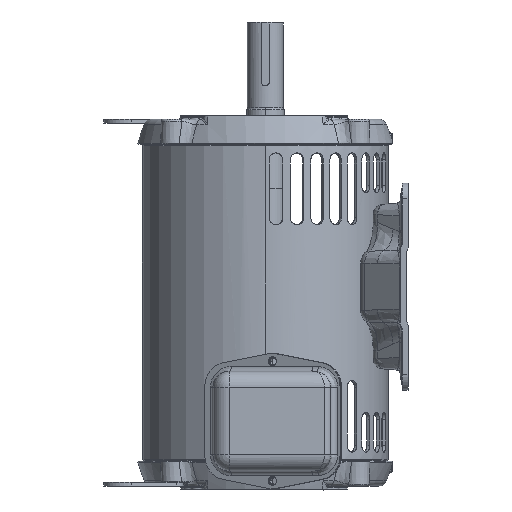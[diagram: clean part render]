
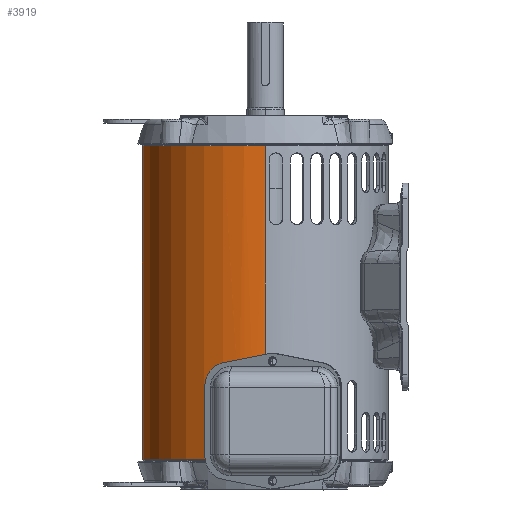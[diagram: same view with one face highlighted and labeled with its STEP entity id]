
A CAD part, left-side view. The second image highlights one B-rep face of the part: STEP entity #3919.
In plain terms, the highlighted cylindrical face has radius 97.815 mm (diameter 195.631 mm), a partial arc.
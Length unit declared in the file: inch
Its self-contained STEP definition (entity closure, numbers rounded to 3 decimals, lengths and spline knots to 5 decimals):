
#2=CARTESIAN_POINT('',(-3.78118,0.73,-3.1595));
#3=CARTESIAN_POINT('',(-3.77863,0.7432,-3.1595));
#4=CARTESIAN_POINT('',(-3.77372,0.7679,-3.15504));
#5=CARTESIAN_POINT('',(-3.76662,0.80193,-3.13562));
#6=CARTESIAN_POINT('',(-3.76119,0.8269,-3.1056));
#7=CARTESIAN_POINT('',(-3.75828,0.83998,-3.06955));
#8=CARTESIAN_POINT('',(-3.75825,0.84009,-3.03092));
#9=CARTESIAN_POINT('',(-3.76117,0.82701,-2.99465));
#10=CARTESIAN_POINT('',(-3.76651,0.80246,-2.96482));
#11=CARTESIAN_POINT('',(-3.77369,0.76804,-2.94495));
#12=CARTESIAN_POINT('',(-3.77862,0.74326,-2.9405));
#13=CARTESIAN_POINT('',(-3.78118,0.73,-2.9405));
#15=CARTESIAN_POINT('',(-3.78118,0.73,-2.9405));
#16=CARTESIAN_POINT('',(-3.78372,0.71683,-2.9405));
#17=CARTESIAN_POINT('',(-3.78834,0.69216,-2.94495));
#18=CARTESIAN_POINT('',(-3.79437,0.65823,-2.96426));
#19=CARTESIAN_POINT('',(-3.7986,0.63319,-2.99422));
#20=CARTESIAN_POINT('',(-3.80076,0.62002,-3.03037));
#21=CARTESIAN_POINT('',(-3.80078,0.61991,-3.06918));
#22=CARTESIAN_POINT('',(-3.79862,0.63309,-3.10555));
#23=CARTESIAN_POINT('',(-3.79446,0.65772,-3.13532));
#24=CARTESIAN_POINT('',(-3.78837,0.69205,-3.15507));
#25=CARTESIAN_POINT('',(-3.78373,0.71679,-3.1595));
#26=CARTESIAN_POINT('',(-3.78118,0.73,-3.1595));
#28=CARTESIAN_POINT('',(0.,0.,4.91902));
#29=DIRECTION('',(0.,0.,1.));
#30=DIRECTION('',(1.,0.,0.));
#31=AXIS2_PLACEMENT_3D('',#28,#29,#30);
#33=CARTESIAN_POINT('',(0.,0.,4.91902));
#34=DIRECTION('',(0.,0.,1.));
#35=DIRECTION('',(0.,1.,0.));
#36=AXIS2_PLACEMENT_3D('',#33,#34,#35);
#38=CARTESIAN_POINT('',(-3.83797,0.31658,-3.03443));
#39=CARTESIAN_POINT('',(-3.84073,0.28301,-3.02017));
#40=CARTESIAN_POINT('',(-3.84549,0.21473,-2.99646));
#41=CARTESIAN_POINT('',(-3.84999,0.10782,-2.97477));
#42=CARTESIAN_POINT('',(-3.851,0.03614,-2.97));
#43=CARTESIAN_POINT('',(-3.851,0.,-2.97));
#45=CARTESIAN_POINT('',(-3.83148,0.38721,-3.12066));
#46=CARTESIAN_POINT('',(-3.83162,0.38589,-3.11428));
#47=CARTESIAN_POINT('',(-3.83198,0.38228,-3.10193));
#48=CARTESIAN_POINT('',(-3.83281,0.37392,-3.08439));
#49=CARTESIAN_POINT('',(-3.83387,0.36287,-3.06847));
#50=CARTESIAN_POINT('',(-3.83512,0.34944,-3.05453));
#51=CARTESIAN_POINT('',(-3.83651,0.33391,-3.04291));
#52=CARTESIAN_POINT('',(-3.83747,0.32255,-3.03696));
#53=CARTESIAN_POINT('',(-3.83797,0.31658,-3.03443));
#55=CARTESIAN_POINT('',(-3.79414,0.65934,-3.39279));
#56=CARTESIAN_POINT('',(-3.79703,0.64268,-3.38936));
#57=CARTESIAN_POINT('',(-3.80245,0.6102,-3.38016));
#58=CARTESIAN_POINT('',(-3.80964,0.56354,-3.35929));
#59=CARTESIAN_POINT('',(-3.81574,0.52046,-3.33189));
#60=CARTESIAN_POINT('',(-3.8208,0.48177,-3.2985));
#61=CARTESIAN_POINT('',(-3.82485,0.44833,-3.25984));
#62=CARTESIAN_POINT('',(-3.82796,0.42086,-3.21675));
#63=CARTESIAN_POINT('',(-3.83019,0.3999,-3.17));
#64=CARTESIAN_POINT('',(-3.83114,0.39066,-3.1374));
#65=CARTESIAN_POINT('',(-3.83148,0.38721,-3.12066));
#67=CARTESIAN_POINT('',(-3.77814,0.74557,-3.46342));
#68=CARTESIAN_POINT('',(-3.77864,0.74301,-3.4574));
#69=CARTESIAN_POINT('',(-3.77982,0.73701,-3.44596));
#70=CARTESIAN_POINT('',(-3.78209,0.72531,-3.43038));
#71=CARTESIAN_POINT('',(-3.78474,0.71133,-3.41696));
#72=CARTESIAN_POINT('',(-3.7877,0.69543,-3.40598));
#73=CARTESIAN_POINT('',(-3.79087,0.67797,-3.39769));
#74=CARTESIAN_POINT('',(-3.79303,0.66568,-3.3941));
#75=CARTESIAN_POINT('',(-3.79414,0.65934,-3.39279));
#77=CARTESIAN_POINT('',(-3.851,0.,-4.59));
#78=CARTESIAN_POINT('',(-3.851,0.02796,-4.59));
#79=CARTESIAN_POINT('',(-3.8504,0.08371,-4.58713));
#80=CARTESIAN_POINT('',(-3.84765,0.16762,-4.57398));
#81=CARTESIAN_POINT('',(-3.8432,0.2493,-4.5522));
#82=CARTESIAN_POINT('',(-3.83733,0.3271,-4.52254));
#83=CARTESIAN_POINT('',(-3.83029,0.40112,-4.48539));
#84=CARTESIAN_POINT('',(-3.82185,0.47485,-4.43831));
#85=CARTESIAN_POINT('',(-3.81187,0.54934,-4.37809));
#86=CARTESIAN_POINT('',(-3.80029,0.62443,-4.30029));
#87=CARTESIAN_POINT('',(-3.78755,0.69736,-4.19894));
#88=CARTESIAN_POINT('',(-3.7756,0.75896,-4.07534));
#89=CARTESIAN_POINT('',(-3.76667,0.80167,-3.92747));
#90=CARTESIAN_POINT('',(-3.76368,0.81538,-3.76745));
#91=CARTESIAN_POINT('',(-3.76784,0.7962,-3.60559));
#92=CARTESIAN_POINT('',(-3.77426,0.76524,-3.50975));
#93=CARTESIAN_POINT('',(-3.77814,0.74557,-3.46342));
#95=CARTESIAN_POINT('',(0.,0.,-4.92302));
#96=DIRECTION('',(0.,0.,1.));
#97=DIRECTION('',(0.,1.,0.));
#98=AXIS2_PLACEMENT_3D('',#95,#96,#97);
#100=CARTESIAN_POINT('',(0.,0.,-4.92302));
#101=DIRECTION('',(0.,0.,1.));
#102=DIRECTION('',(1.,0.,0.));
#103=AXIS2_PLACEMENT_3D('',#100,#101,#102);
#105=DIRECTION('',(0.,0.,1.));
#106=VECTOR('',#105,9.84203);
#107=CARTESIAN_POINT('',(3.851,0.,-4.92302));
#108=LINE('',#107,#106);
#1455=DIRECTION('',(0.,0.,1.));
#1456=VECTOR('',#1455,0.33302);
#1457=CARTESIAN_POINT('',(-3.851,0.,-4.92302));
#1458=LINE('',#1457,#1456);
#1516=DIRECTION('',(0.,0.,1.));
#1517=VECTOR('',#1516,7.88902);
#1518=CARTESIAN_POINT('',(-3.851,0.,-2.97));
#1519=LINE('',#1518,#1517);
#3338=VERTEX_POINT('',#2);
#3339=VERTEX_POINT('',#13);
#3366=VERTEX_POINT('',#45);
#3367=VERTEX_POINT('',#53);
#3368=VERTEX_POINT('',#43);
#3369=VERTEX_POINT('',#77);
#3370=VERTEX_POINT('',#93);
#3371=VERTEX_POINT('',#75);
#3858=CARTESIAN_POINT('',(3.851,0.,4.91902));
#3859=CARTESIAN_POINT('',(0.,3.851,4.91902));
#3860=VERTEX_POINT('',#3858);
#3861=VERTEX_POINT('',#3859);
#3862=CARTESIAN_POINT('',(-3.851,0.,4.91902));
#3863=VERTEX_POINT('',#3862);
#3864=CARTESIAN_POINT('',(3.851,0.,-4.92302));
#3865=CARTESIAN_POINT('',(0.,3.851,-4.92302));
#3866=VERTEX_POINT('',#3864);
#3867=VERTEX_POINT('',#3865);
#3868=CARTESIAN_POINT('',(-3.851,0.,-4.92302));
#3869=VERTEX_POINT('',#3868);
#3882=CARTESIAN_POINT('',(0.,0.,-5.19));
#3883=DIRECTION('',(0.,0.,1.));
#3884=DIRECTION('',(1.,0.,0.));
#3885=AXIS2_PLACEMENT_3D('',#3882,#3883,#3884);
#3886=CYLINDRICAL_SURFACE('',#3885,3.851);
#3888=ORIENTED_EDGE('',*,*,#3887,.T.);
#3890=ORIENTED_EDGE('',*,*,#3889,.T.);
#3892=ORIENTED_EDGE('',*,*,#3891,.F.);
#3894=ORIENTED_EDGE('',*,*,#3893,.F.);
#3896=ORIENTED_EDGE('',*,*,#3895,.F.);
#3898=ORIENTED_EDGE('',*,*,#3897,.F.);
#3900=ORIENTED_EDGE('',*,*,#3899,.F.);
#3902=ORIENTED_EDGE('',*,*,#3901,.F.);
#3904=ORIENTED_EDGE('',*,*,#3903,.F.);
#3906=ORIENTED_EDGE('',*,*,#3905,.F.);
#3908=ORIENTED_EDGE('',*,*,#3907,.F.);
#3910=ORIENTED_EDGE('',*,*,#3909,.T.);
#3911=EDGE_LOOP('',(#3888,#3890,#3892,#3894,#3896,#3898,#3900,#3902,#3904,#3906,
#3908,#3910));
#3912=FACE_OUTER_BOUND('',#3911,.F.);
#3914=ORIENTED_EDGE('',*,*,#3913,.F.);
#3916=ORIENTED_EDGE('',*,*,#3915,.F.);
#3917=EDGE_LOOP('',(#3914,#3916));
#3918=FACE_BOUND('',#3917,.F.);
#3919=ADVANCED_FACE('',(#3912,#3918),#3886,.T.);
#14=B_SPLINE_CURVE_WITH_KNOTS('',3,(#2,#3,#4,#5,#6,#7,#8,#9,#10,#11,#12,#13),
.UNSPECIFIED.,.F.,.F.,(4,1,1,1,1,1,1,1,1,4),(0.,0.11111,
0.22222,0.33333,0.44444,0.55556,
0.66667,0.77778,0.88889,1.),.UNSPECIFIED.);
#27=B_SPLINE_CURVE_WITH_KNOTS('',3,(#15,#16,#17,#18,#19,#20,#21,#22,#23,#24,#25,
#26),.UNSPECIFIED.,.F.,.F.,(4,1,1,1,1,1,1,1,1,4),(0.,0.11111,
0.22222,0.33333,0.44444,0.55556,
0.66667,0.77778,0.88889,1.),.UNSPECIFIED.);
#32=CIRCLE('',#31,3.851);
#37=CIRCLE('',#36,3.851);
#44=B_SPLINE_CURVE_WITH_KNOTS('',3,(#38,#39,#40,#41,#42,#43),.UNSPECIFIED.,.F.,
.F.,(4,1,1,4),(0.,0.33333,0.66667,1.),.UNSPECIFIED.);
#54=B_SPLINE_CURVE_WITH_KNOTS('',3,(#45,#46,#47,#48,#49,#50,#51,#52,#53),
.UNSPECIFIED.,.F.,.F.,(4,1,1,1,1,1,4),(0.,0.16667,0.33333,
0.5,0.66667,0.83333,1.),.UNSPECIFIED.);
#66=B_SPLINE_CURVE_WITH_KNOTS('',3,(#55,#56,#57,#58,#59,#60,#61,#62,#63,#64,
#65),.UNSPECIFIED.,.F.,.F.,(4,1,1,1,1,1,1,1,4),(0.,0.125,0.25,0.375,
0.5,0.625,0.75,0.875,1.),.UNSPECIFIED.);
#76=B_SPLINE_CURVE_WITH_KNOTS('',3,(#67,#68,#69,#70,#71,#72,#73,#74,#75),
.UNSPECIFIED.,.F.,.F.,(4,1,1,1,1,1,4),(0.,0.16667,0.33333,
0.5,0.66667,0.83333,1.),.UNSPECIFIED.);
#94=B_SPLINE_CURVE_WITH_KNOTS('',3,(#77,#78,#79,#80,#81,#82,#83,#84,#85,#86,#87,
#88,#89,#90,#91,#92,#93),.UNSPECIFIED.,.F.,.F.,(4,1,1,1,1,1,1,1,1,1,1,1,1,1,4),(
0.,0.07143,0.14286,0.21429,0.28571,
0.35714,0.42857,0.5,0.57143,0.64286,
0.71429,0.78571,0.85714,0.92857,1.),
.UNSPECIFIED.);
#99=CIRCLE('',#98,3.851);
#104=CIRCLE('',#103,3.851);
#3887=EDGE_CURVE('',#3860,#3861,#32,.T.);
#3889=EDGE_CURVE('',#3861,#3863,#37,.T.);
#3891=EDGE_CURVE('',#3368,#3863,#1519,.T.);
#3893=EDGE_CURVE('',#3367,#3368,#44,.T.);
#3895=EDGE_CURVE('',#3366,#3367,#54,.T.);
#3897=EDGE_CURVE('',#3371,#3366,#66,.T.);
#3899=EDGE_CURVE('',#3370,#3371,#76,.T.);
#3901=EDGE_CURVE('',#3369,#3370,#94,.T.);
#3903=EDGE_CURVE('',#3869,#3369,#1458,.T.);
#3905=EDGE_CURVE('',#3867,#3869,#99,.T.);
#3907=EDGE_CURVE('',#3866,#3867,#104,.T.);
#3909=EDGE_CURVE('',#3866,#3860,#108,.T.);
#3913=EDGE_CURVE('',#3338,#3339,#14,.T.);
#3915=EDGE_CURVE('',#3339,#3338,#27,.T.);
